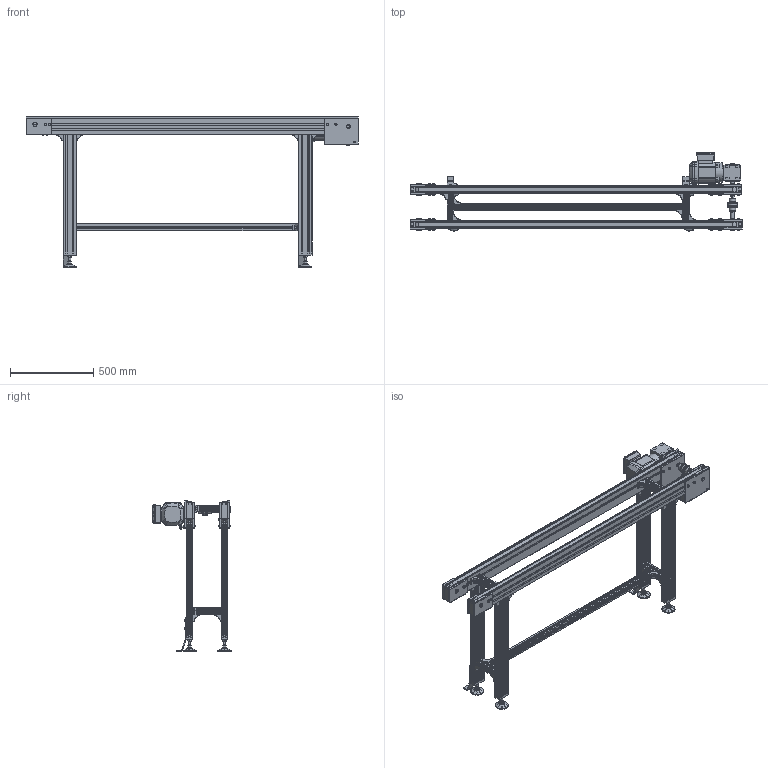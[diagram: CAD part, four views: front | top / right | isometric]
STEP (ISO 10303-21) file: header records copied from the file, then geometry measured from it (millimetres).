
FILE_DESCRIPTION(/* description */ (''),/* implementation_level */ '2;1');
FILE_NAME(/* name */ 'C:\Marketing\01_Versamove-SPU_STEP-Dateien-Homepage\VersamoveStandard\B240\STEP-Dateien\Zahnriemenförderer_Standard_B240_L2000.stp',/* time_stamp */ '2016-12-15T10:56:53+01:00',/* author */ ('herbert.engels'),/* organization */ (''),/* preprocessor_version */ 'ST-DEVELOPER v15.6',/* originating_system */ 'Autodesk Inventor 2015',/* authorisation */ '');
FILE_SCHEMA (('CONFIG_CONTROL_DESIGN'));
Products named in the file (1): Zahnriemenförderer_Standard_B240_L2000
Bounding box: 2000 x 470.57 x 905 mm (x, y, z)
Volume: 27737457.4 mm3; surface area: 5561721.9 mm2
Topology: 5 solids, 5 shells, 5005 faces, 13529 edges, 8738 vertices
Faces by surface type: plane 3125, cylinder 1310, cone 377, torus 127, sphere 50, bspline 16
Full cylindrical faces by diameter (mm): 2 x8, 4.917 x4, 6 x8, 6.647 x8, 7.323 x4, 8 x68, 8.7 x4, 9 x12, 10 x4, 10.066 x1, 11.4 x22, 12 x8, 13 x72, 13.6 x8, 14 x40, 15 x8, 18 x4, 19 x4, 19.77 x4, 20 x13, 25 x1, 25.05 x4, 28 x1, 30 x2, 40 x2, 53 x1, 54 x2, 56 x3, 79 x4, 117 x1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
Entity records: 161973 total; most frequent: CARTESIAN_POINT 32210, ORIENTED_EDGE 25718, DIRECTION 25302, EDGE_CURVE 12858, VERTEX_POINT 8570, LINE 8548, VECTOR 8548, AXIS2_PLACEMENT_3D 8377
